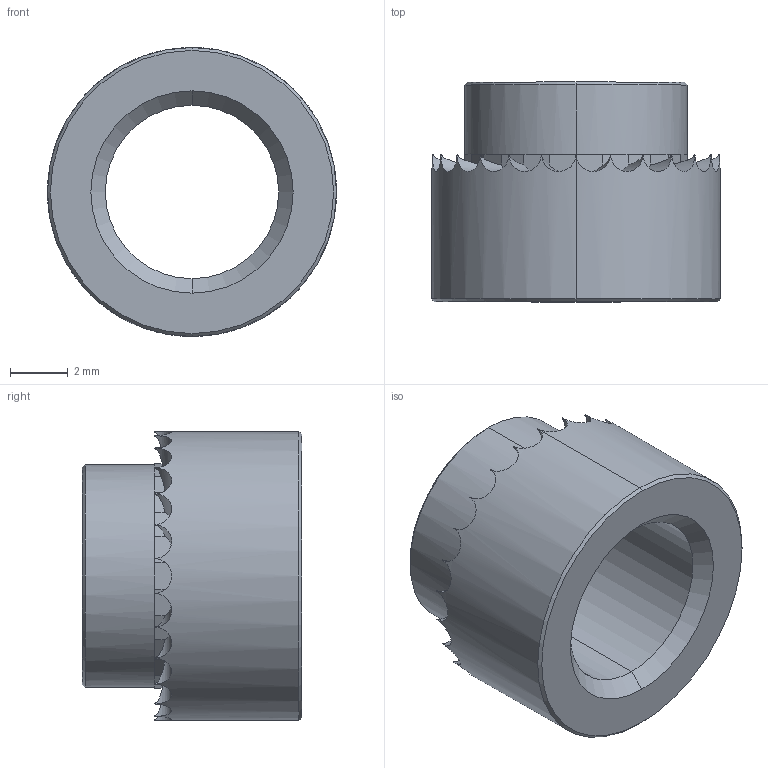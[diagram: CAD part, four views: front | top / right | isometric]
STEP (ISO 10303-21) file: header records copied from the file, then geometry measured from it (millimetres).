
FILE_DESCRIPTION (( 'STEP AP203' ), '1' );
FILE_NAME ('P0829.060-14G-ZP.step', '2019-03-21T22:19:15', ( '' ), ( '' ), 'SwSTEP 2.0', 'SolidWorks 2017', '' );
FILE_SCHEMA (( 'CONFIG_CONTROL_DESIGN' ));
Length unit declared in the file: millimetre
Products named in the file (1): P0829.060-14G-ZP
Bounding box: 10 x 7.6 x 10 mm (x, y, z)
Volume: 280.9 mm3; surface area: 457.5 mm2
Topology: 1 solids, 1 shells, 120 faces, 294 edges, 176 vertices
Faces by surface type: plane 80, cylinder 32, cone 8
Entity records: 3739 total; most frequent: CARTESIAN_POINT 903, ORIENTED_EDGE 588, DIRECTION 582, EDGE_CURVE 294, AXIS2_PLACEMENT_3D 219, VERTEX_POINT 176, VECTOR 144, LINE 144
